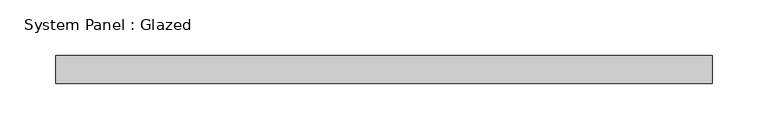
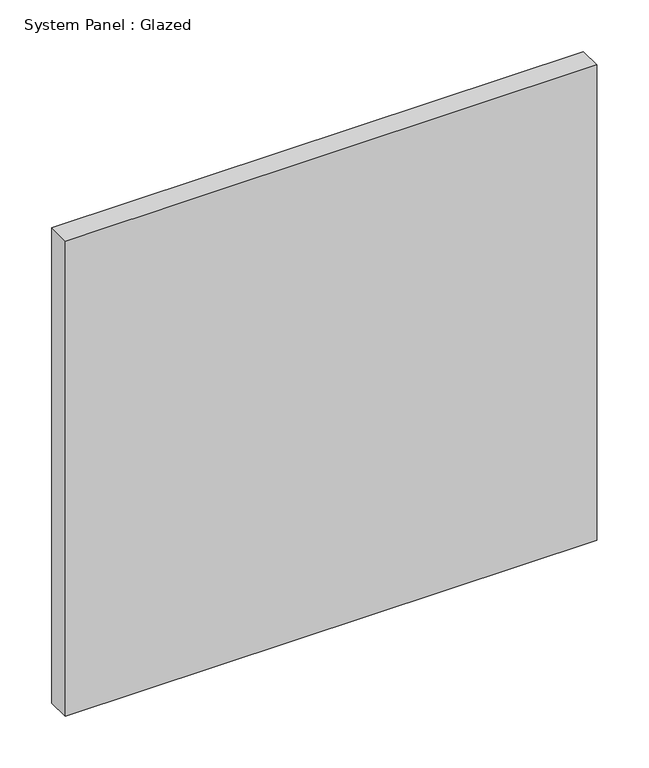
"""IFC4 building model written with IfcOpenShell, lengths in millimetres: plate geometry, System Panel : Glazed."""

from ifc_helpers import new_model, si_unit, origin, origin_with_axes, place, context, project, spatial, polyline, outline, extrude, source, transform, mapped, element, save


def system_panel_glazed_92b1d792(model_context):
    return source(origin(), model_context, "Body", "SweptSolid", [
        extrude(outline(polyline([(295.693807, -12.7), (-295.693807, -12.7), (-295.693807, 12.7), (295.693807, 12.7), (295.693807, -12.7)])), origin_with_axes(), (0.0, 0.0, 1.0), 558.8),
    ])


if __name__ == "__main__":
    model = new_model("IFC4")
    model_context = context("Model", 3, world=origin())
    ifc_project = project(units=[si_unit("LENGTHUNIT", "METRE", prefix="MILLI")], contexts=[model_context])
    site = spatial("IfcSite", under=ifc_project)
    building = spatial("IfcBuilding", under=site)
    placement = place(None, origin())
    system_panel_glazed_shape = system_panel_glazed_92b1d792(model_context)
    element("IfcPlate", 1, ObjectType="System Panel : Glazed", at=placement, inside=building, context=model_context, shape_type="MappedRepresentation", body=[
        mapped(system_panel_glazed_shape, transform((0.0, 0.0, 0.0), x_axis=(1.0, 0.0, 0.0), y_axis=(0.0, 1.0, 0.0), z_axis=(0.0, 0.0, 1.0))),
    ])
    save(model, "model.ifc")
